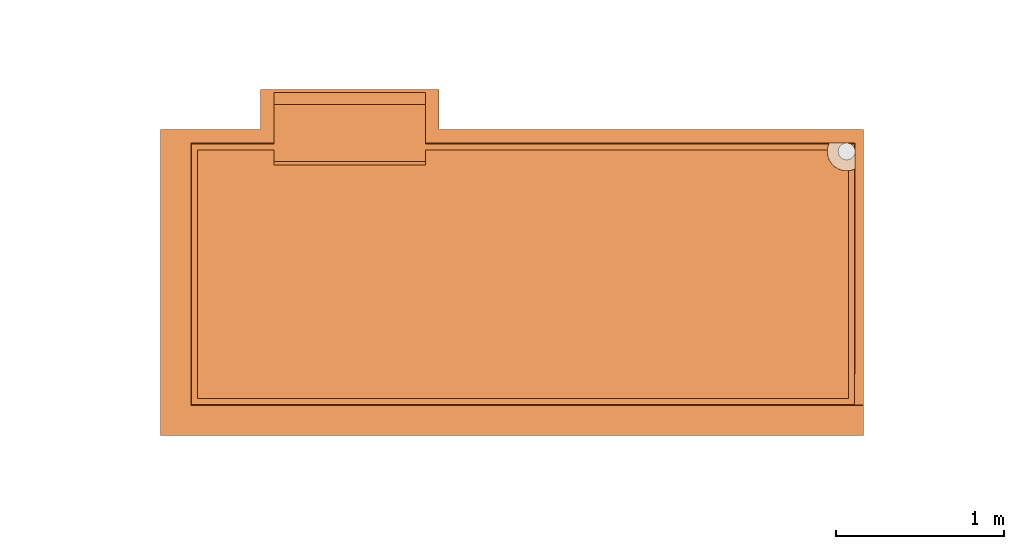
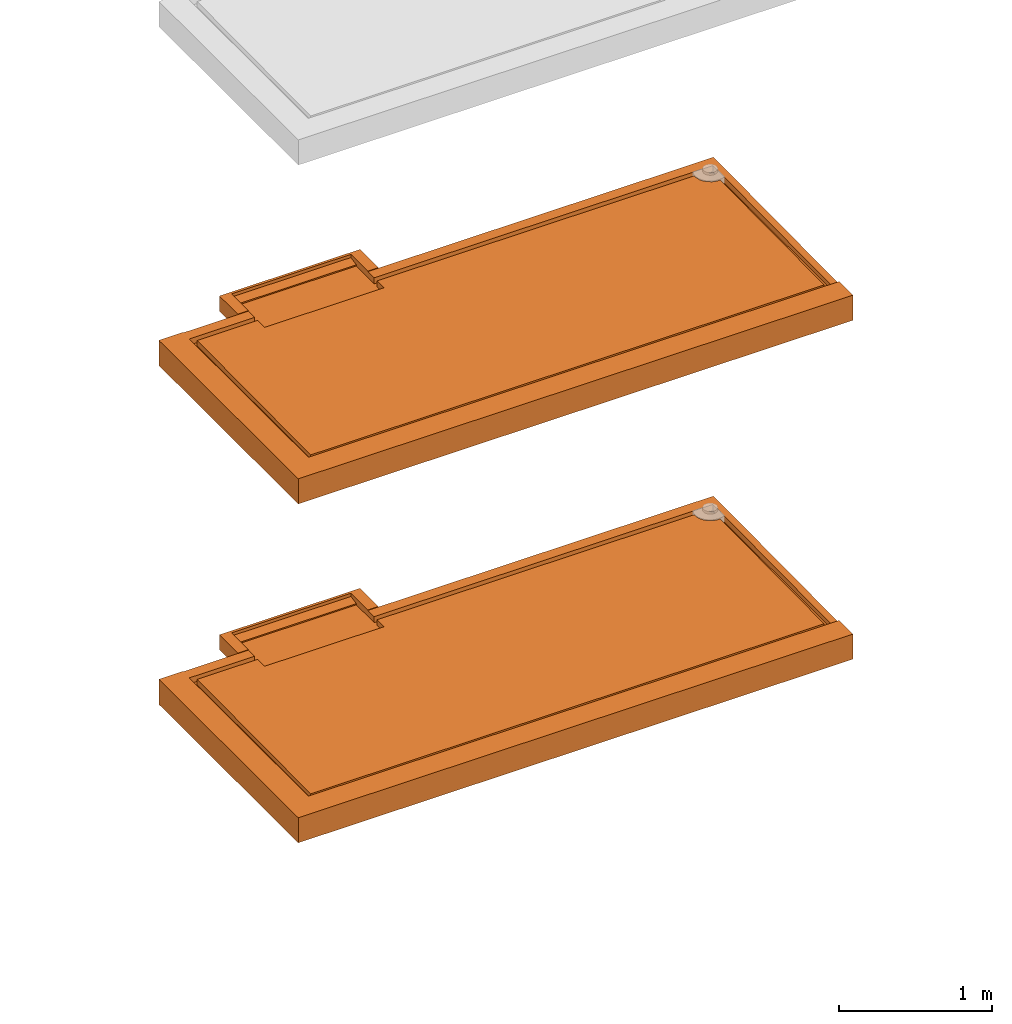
# One storey, part 16 of 31: 2 proxies, 2 elements without a shape of their own.
"""IFC2X3 building model written with IfcOpenShell, lengths in centimetres."""

from ifc_helpers import new_model, entity, si_unit, converted_unit, derived_unit, direction, frame, origin, place, context, subcontext, project, spatial, faceted_brep, source, transform, mapped, material, type_object, type_shapes, element, aggregate, save


model = new_model("IFC2X3")

# Units and contexts
model_context = context("Model", 3, precision=0.001, world=origin(), true_north=direction((6.12303176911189e-17, 1.0)))
body_context = subcontext(model_context, "Body", "Model", "MODEL_VIEW")
ifc_project = project(units=[si_unit("LENGTHUNIT", "METRE", prefix="CENTI"), si_unit("AREAUNIT", "SQUARE_METRE"), si_unit("VOLUMEUNIT", "CUBIC_METRE"), converted_unit("PLANEANGLEUNIT", "DEGREE", entity("IfcRatioMeasure", 0.0174532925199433), si_unit("PLANEANGLEUNIT", "RADIAN"), dimensions=[0, 0, 0, 0, 0, 0, 0]), si_unit("MASSUNIT", "GRAM", prefix="KILO"), derived_unit("MASSDENSITYUNIT", [(si_unit("MASSUNIT", "GRAM", prefix="KILO"), 1), (si_unit("LENGTHUNIT", "METRE"), -3)]), si_unit("TIMEUNIT", "SECOND"), si_unit("FREQUENCYUNIT", "HERTZ"), si_unit("THERMODYNAMICTEMPERATUREUNIT", "DEGREE_CELSIUS"), derived_unit("THERMALTRANSMITTANCEUNIT", [(si_unit("MASSUNIT", "GRAM", prefix="KILO"), 1), (si_unit("THERMODYNAMICTEMPERATUREUNIT", "KELVIN"), -1), (si_unit("TIMEUNIT", "SECOND"), -3)]), derived_unit("VOLUMETRICFLOWRATEUNIT", [(si_unit("LENGTHUNIT", "METRE"), 3), (si_unit("TIMEUNIT", "SECOND"), -1)]), si_unit("ELECTRICCURRENTUNIT", "AMPERE"), si_unit("ELECTRICVOLTAGEUNIT", "VOLT"), si_unit("POWERUNIT", "WATT"), si_unit("FORCEUNIT", "NEWTON"), si_unit("ILLUMINANCEUNIT", "LUX"), si_unit("LUMINOUSFLUXUNIT", "LUMEN"), si_unit("LUMINOUSINTENSITYUNIT", "CANDELA"), derived_unit("USERDEFINED", [(si_unit("MASSUNIT", "GRAM", prefix="KILO"), -1), (si_unit("LENGTHUNIT", "METRE"), -2), (si_unit("TIMEUNIT", "SECOND"), 3), (si_unit("LUMINOUSFLUXUNIT", "LUMEN"), 1)]), derived_unit("LINEARVELOCITYUNIT", [(si_unit("LENGTHUNIT", "METRE"), 1), (si_unit("TIMEUNIT", "SECOND"), -1)]), si_unit("PRESSUREUNIT", "PASCAL"), derived_unit("USERDEFINED", [(si_unit("LENGTHUNIT", "METRE"), -2), (si_unit("MASSUNIT", "GRAM", prefix="KILO"), 1), (si_unit("TIMEUNIT", "SECOND"), -2)])], contexts=[model_context])

# Site, building, storey
site_placement = place(None, origin())
site = spatial("IfcSite", under=ifc_project, at=site_placement, Name="Default", CompositionType="ELEMENT")
building_placement = place(site_placement, origin())
building = spatial("IfcBuilding", under=site, at=building_placement, Name="CAGE 03", CompositionType="ELEMENT")
storey_placement = place(building_placement, frame((0.0, 0.0, -400.0)))
storey = spatial("IfcBuildingStorey", under=building, at=storey_placement, Name="±0.00", CompositionType="ELEMENT", Elevation=-400.0)

# Assembly, proxy
assembly_1_placement = place(storey_placement, origin())
assembly_1 = element("IfcElementAssembly", 1, at=assembly_1_placement, inside=storey, Name="Assemblage Modèles génériques:BALCON TYPE 05", ObjectType="Assemblage Modèles génériques:BALCON TYPE 05", AssemblyPlace="NOTDEFINED", PredefinedType="USERDEFINED")
ifc_material = material(Name="Béton, panneaux préfa 30/37")
building_element_proxy_type_1 = type_object("IfcBuildingElementProxyType", Name="balcon préfa type 05", PredefinedType="NOTDEFINED", material=ifc_material)
shared_shape_1 = source(origin(), body_context, "Body", "Brep", [
    faceted_brep([(18.4374433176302, 173.562556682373, 15.0), (18.4374433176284, 18.437443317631, 15.0), (412.562556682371, 18.4374433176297, 15.0), (412.562556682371, 158.443813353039, 15.0), (410.817467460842, 157.850476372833, 15.0), (409.0, 157.543560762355, 15.0), (409.0, 22.0, 15.0), (22.0, 22.0, 15.0), (22.0, 170.0, 15.0), (67.5000000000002, 170.0, 15.0), (67.5000000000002, 163.0, 15.0), (157.500000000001, 163.0, 15.0), (157.500000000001, 170.0, 15.0), (396.543560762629, 170.0, 15.0), (396.85047637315, 171.817467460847, 15.0), (397.443813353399, 173.562556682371, 15.0), (157.500000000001, 173.562556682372, 15.0), (157.500000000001, 197.0, 15.0), (67.5000000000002, 197.0, 15.0), (67.5000000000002, 173.562556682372, 15.0), (410.045257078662, 173.562556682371, 15.0), (411.081635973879, 172.937450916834, 15.0), (411.937450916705, 172.081635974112, 15.0), (412.562556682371, 171.045257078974, 15.0), (412.562556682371, 173.562556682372, 15.0), (59.5000000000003, 182.0, 20.0), (67.5000000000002, 182.0, 20.0), (67.5000000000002, 204.0, 20.0), (157.500000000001, 204.0, 20.0), (157.500000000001, 182.0, 20.0), (165.5, 182.0, 20.0), (165.5, 198.0, 20.0), (165.5, 206.0, 20.0), (59.5000000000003, 206.0, 20.0), (59.5000000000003, 198.0, 20.0), (18.0, 18.0, 20.0), (18.0, 180.0, 20.0), (18.0, 182.0, 20.0), (0.0, 182.0, 20.0), (0.0, 180.0, 20.0), (0.0, 0.0, 20.0), (418.0, 0.0, 20.0), (418.0, 18.0, 20.0), (59.5000000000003, 206.0, 8.0), (165.5, 206.0, 8.0), (0.0, 0.0, 0.0), (418.0, 0.0, 0.0), (67.5000000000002, 163.0, 16.9198129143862), (67.5000000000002, 161.026803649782, 16.9000788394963), (157.500000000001, 161.026803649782, 16.9000788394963), (157.500000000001, 163.0, 16.9198129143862), (418.0, 180.0, 0.0), (418.0, 182.0, 0.0), (418.0, 182.0, 19.6099582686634), (418.0, 180.0, 19.5899561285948), (418.0, 18.177465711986, 17.9715576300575), (412.822534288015, 18.177465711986, 17.9715576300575), (18.0411600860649, 173.958839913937, 19.529538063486), (18.0358741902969, 180.0, 19.589956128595), (18.0341242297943, 182.0, 19.6099582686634), (0.0, 182.0, 0.0), (0.0, 180.0, 0.0), (67.500000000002, 173.958839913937, 19.5295380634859), (397.48794000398, 173.662054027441, 16.1372598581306), (397.532066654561, 173.761551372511, 17.2745197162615), (397.578068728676, 173.860195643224, 18.4020288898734), (397.601069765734, 173.90951777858, 18.9657834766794), (397.61257028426, 173.934178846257, 19.2476607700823), (397.624070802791, 173.958839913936, 19.5295380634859), (157.500000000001, 173.958839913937, 19.5295380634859), (412.958839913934, 173.958839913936, 19.5295380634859), (408.640239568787, 173.958839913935, 19.5295380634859), (409.001449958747, 173.898683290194, 18.8419447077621), (409.357288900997, 173.812251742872, 17.8540276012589), (409.705847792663, 173.700008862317, 16.5710856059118), (4.0, 4.0, 1.46630765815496), (4.0, 4.0, 0.0), (414.0, 4.0, 0.0), (414.0, 4.0, 1.46630765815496), (165.5, 182.0, 19.6099582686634), (165.5, 182.0, 8.0), (165.5, 198.0, 8.0), (67.5000000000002, 204.0, 17.4999999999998), (157.500000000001, 204.0, 17.4999999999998), (59.5000000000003, 198.0, 8.0), (59.5000000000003, 182.0, 8.0), (59.5000000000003, 182.0, 19.6099582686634), (415.0, 182.0, 0.0), (415.0, 182.0, 1.0), (414.0, 182.0, 1.46630765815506), (414.0, 182.0, 0.0), (18.0, 182.0, 0.0), (4.0, 182.0, 0.0), (4.0, 182.0, 1.46630765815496), (3.0, 182.0, 1.0), (3.0, 182.0, 0.0), (67.5000000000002, 180.0, 19.5899561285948), (67.5000000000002, 182.0, 19.6099582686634), (22.0, 22.0, 18.0097870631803), (409.0, 22.0, 18.0097870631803), (409.0, 157.543560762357, 19.3653677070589), (406.142764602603, 157.65096142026, 19.3664418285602), (403.400338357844, 158.459928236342, 19.3745323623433), (400.942250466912, 159.92045312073, 19.3891391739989), (398.920453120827, 161.94225046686, 19.4093593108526), (397.459928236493, 164.400338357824, 19.4339428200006), (396.65096142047, 167.1427646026, 19.4613700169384), (396.543560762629, 170.0, 19.4899454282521), (157.500000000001, 170.0, 19.4899454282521), (157.500000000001, 161.001802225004, 19.3999538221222), (67.5000000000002, 161.001802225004, 19.3999538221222), (67.5000000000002, 170.0, 19.4899454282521), (22.0, 170.0, 19.4899454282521), (157.500000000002, 182.0, 19.6099582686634), (157.500000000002, 180.0, 19.5899561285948), (397.633936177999, 173.979429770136, 19.5297439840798), (397.643842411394, 174.0, 19.5299497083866), (408.0, 174.0, 19.5299497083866), (408.320780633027, 173.989699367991, 19.5298466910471), (412.955086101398, 169.668671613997, 19.4866317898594), (412.98875888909, 169.335089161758, 19.4832956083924), (413.0, 169.0, 19.4799443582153), (413.0, 158.643842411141, 19.3763717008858), (412.972725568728, 158.630718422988, 19.3762404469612), (412.945416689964, 158.617666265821, 19.3761099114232), (157.500000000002, 197.0, 15.9713250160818), (67.5000000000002, 197.0, 15.9713250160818), (415.0, 3.0, 1.0), (3.0, 3.0, 1.0), (4.0, 180.0, 0.0), (403.669872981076, 166.499999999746, 0.0), (403.170370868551, 167.705904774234, 0.0), (403.0, 169.0, 0.0), (403.170370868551, 170.294095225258, 0.0), (403.669872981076, 171.499999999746, 0.0), (404.464466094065, 172.535533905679, 0.0), (405.499999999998, 173.330127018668, 0.0), (406.705904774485, 173.829629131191, 0.0), (408.0, 174.0, 0.0), (414.0, 180.0, 0.0), (409.29409522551, 173.829629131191, 0.0), (410.499999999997, 173.330127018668, 0.0), (411.535533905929, 172.535533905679, 0.0), (412.330127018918, 171.499999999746, 0.0), (412.829629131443, 170.294095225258, 0.0), (413.0, 169.0, 0.0), (404.464466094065, 165.464466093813, 0.0), (405.499999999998, 164.669872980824, 0.0), (406.705904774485, 164.170370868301, 0.0), (412.829629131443, 167.705904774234, 0.0), (412.330127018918, 166.499999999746, 0.0), (411.535533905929, 165.464466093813, 0.0), (410.499999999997, 164.669872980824, 0.0), (409.29409522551, 164.170370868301, 0.0), (408.0, 164.0, 0.0), (3.0, 180.0, 0.0), (3.0, 3.0, 0.0), (415.0, 3.0, 0.0), (415.0, 180.0, 0.0), (415.0, 180.0, 1.0), (414.0, 180.0, 1.46630765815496), (3.0, 180.0, 1.0), (4.0, 180.0, 1.46630765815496), (412.697557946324, 170.712585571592, 16.5430715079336), (412.808339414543, 170.371084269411, 17.809309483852), (412.894329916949, 170.022513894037, 18.7921854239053), (412.897757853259, 158.595497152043, 18.8313669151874), (412.850099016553, 158.573328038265, 18.2866239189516), (412.754781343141, 158.52898981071, 17.1971379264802), (396.735578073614, 171.315771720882, 7.69999999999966), (396.511272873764, 168.490933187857, 7.69999999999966), (396.984546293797, 165.697004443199, 7.69999999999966), (398.126661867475, 163.103628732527, 7.69999999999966), (399.868272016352, 160.868272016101, 7.69999999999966), (402.103628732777, 159.126661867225, 7.69999999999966), (404.697004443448, 157.984546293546, 7.69999999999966), (407.490933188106, 157.511272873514, 7.69999999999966), (410.315771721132, 157.735578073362, 7.69999999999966), (413.0, 158.643842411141, 7.69999999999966), (413.0, 169.0, 7.69999999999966), (412.829629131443, 167.705904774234, 7.69999999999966), (412.330127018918, 166.499999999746, 7.69999999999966), (411.535533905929, 165.464466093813, 7.69999999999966), (410.499999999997, 164.669872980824, 7.69999999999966), (409.29409522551, 164.170370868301, 7.69999999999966), (408.0, 164.0, 7.69999999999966), (406.705904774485, 164.170370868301, 7.69999999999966), (405.499999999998, 164.669872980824, 7.69999999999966), (404.464466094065, 165.464466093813, 7.69999999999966), (403.669872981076, 166.499999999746, 7.69999999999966), (403.170370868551, 167.705904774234, 7.69999999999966), (403.0, 169.0, 7.69999999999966), (403.170370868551, 170.294095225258, 7.69999999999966), (403.669872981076, 171.499999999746, 7.69999999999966), (404.464466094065, 172.535533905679, 7.69999999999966), (405.499999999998, 173.330127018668, 7.69999999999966), (406.705904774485, 173.829629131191, 7.69999999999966), (408.0, 174.0, 7.69999999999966), (397.643842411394, 174.0, 7.69999999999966), (397.643842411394, 174.0, 19.1602618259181), (397.643842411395, 174.0, 18.7905739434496), (397.643842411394, 174.0, 18.0512051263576), (397.643842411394, 174.0, 16.5724605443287), (397.643842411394, 174.0, 15.0937159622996), (397.643842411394, 174.0, 13.6149713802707), (413.0, 158.643842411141, 18.6465984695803), (413.0, 158.643842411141, 17.9168252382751), (413.0, 158.643842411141, 13.5381858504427), (413.0, 158.643842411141, 16.4572787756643), (413.0, 158.643842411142, 14.9977323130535)], [[[0, 1, 2, 3, 4, 5, 6, 7, 8, 9, 10, 11, 12, 13, 14, 15, 16, 17, 18, 19]], [[20, 21, 22, 23, 24]], [[25, 26, 27, 28, 29, 30, 31, 32, 33, 34]], [[35, 36, 37, 38, 39, 40, 41, 42]], [[43, 33, 32, 44]], [[40, 45, 46, 41]], [[47, 48, 49, 50]], [[10, 47, 50, 11]], [[51, 52, 53, 54, 55, 42, 41, 46]], [[42, 55, 56, 2, 1, 35]], [[1, 0, 57, 58, 59, 37, 36, 35]], [[45, 40, 39, 38, 60, 61]], [[62, 57, 0, 19]], [[15, 63, 64, 65, 66, 67, 68, 69, 16]], [[70, 71, 72, 73, 74, 20, 24]], [[75, 76, 77, 78]], [[31, 30, 79, 80, 81, 44, 32]], [[27, 82, 83, 28]], [[84, 43, 44, 81, 80, 85]], [[38, 37, 59, 86, 85, 80, 79, 53, 52, 87, 88, 89, 90, 91, 92, 93, 94, 95, 60]], [[58, 57, 62, 96, 97, 86, 59]], [[98, 99, 100, 101, 102, 103, 104, 105, 106, 107, 108, 109, 110, 111, 112]], [[79, 113, 114, 69, 68, 115, 116, 117, 118, 71, 70, 119, 120, 121, 122, 123, 124, 56, 55, 54, 53]], [[125, 17, 16, 69, 114, 113, 29, 28, 83]], [[108, 12, 11, 50, 49, 109]], [[82, 27, 26, 97, 96, 62, 19, 18, 126]], [[111, 110, 48, 47, 10, 9]], [[75, 78, 127, 128]], [[92, 91, 129]], [[76, 129, 91]], [[91, 130, 76]], [[91, 131, 130]], [[131, 91, 132]], [[132, 91, 133]], [[133, 91, 134]], [[135, 134, 91]], [[90, 135, 91]], [[90, 136, 135]], [[90, 137, 136]], [[138, 137, 90]], [[139, 138, 90]], [[140, 138, 139]], [[140, 139, 141]], [[142, 141, 139]], [[139, 143, 142]], [[144, 143, 139]], [[139, 145, 144]], [[145, 139, 77]], [[76, 130, 77]], [[77, 130, 146]], [[77, 146, 147]], [[77, 147, 148]], [[149, 145, 77]], [[77, 150, 149]], [[150, 77, 151]], [[152, 151, 77]], [[152, 77, 153]], [[154, 153, 77]], [[154, 77, 148]], [[60, 95, 155, 156, 157, 158, 87, 52, 51, 46, 45, 61]], [[48, 110, 109, 49]], [[8, 7, 98, 112]], [[9, 8, 112, 111]], [[13, 12, 108, 107]], [[7, 6, 99, 98]], [[128, 127, 157, 156]], [[82, 126, 125, 83]], [[126, 18, 17, 125]], [[30, 29, 113, 79]], [[26, 25, 86, 97]], [[87, 158, 157, 127, 159, 88]], [[160, 78, 77, 139, 90, 89]], [[159, 127, 78, 160, 89, 88]], [[156, 155, 95, 94, 161, 128]], [[76, 75, 162, 93, 92, 129]], [[75, 128, 161, 94, 93, 162]], [[99, 6, 5, 100]], [[23, 163, 164, 165, 119, 70, 24]], [[2, 56, 124, 166, 167, 168, 3]], [[34, 33, 43, 84, 85, 86, 25]], [[169, 170, 171, 172, 173, 174, 175, 176, 177, 178, 179, 180, 181, 182, 183, 184, 185, 186, 187, 188, 189, 190, 191, 192, 193, 194, 195, 196, 197, 198]], [[117, 116, 199, 200, 201, 202, 203, 204, 198, 197]], [[14, 169, 198]], [[65, 64, 201]], [[14, 204, 15]], [[14, 13, 169]], [[63, 202, 64]], [[171, 170, 106]], [[170, 13, 106]], [[169, 13, 170]], [[105, 172, 171]], [[205, 206, 167]], [[122, 205, 166]], [[200, 199, 66]], [[200, 65, 201]], [[204, 14, 198]], [[66, 65, 200]], [[105, 171, 106]], [[67, 66, 199]], [[115, 68, 67]], [[106, 13, 107]], [[105, 104, 172]], [[67, 199, 115]], [[104, 173, 172]], [[174, 102, 175]], [[173, 103, 174]], [[176, 175, 101]], [[177, 207, 178]], [[202, 201, 64]], [[177, 5, 4]], [[207, 177, 4]], [[176, 5, 177]], [[101, 5, 176]], [[15, 203, 63]], [[100, 5, 101]], [[166, 123, 122]], [[102, 174, 103]], [[168, 208, 3]], [[101, 175, 102]], [[3, 208, 209, 207]], [[4, 3, 207]], [[206, 208, 168]], [[206, 168, 167]], [[167, 166, 205]], [[166, 124, 123]], [[116, 115, 199]], [[15, 204, 203]], [[202, 63, 203]], [[104, 103, 173]], [[179, 178, 207, 209, 208, 206, 205, 122, 121]], [[136, 137, 196, 195]], [[136, 195, 194, 135]], [[133, 134, 193, 192]], [[194, 193, 134, 135]], [[132, 133, 192, 191]], [[138, 197, 196, 137]], [[130, 131, 190, 189]], [[130, 189, 188, 146]], [[148, 147, 187, 186]], [[188, 187, 147, 146]], [[154, 148, 186, 185]], [[191, 190, 131, 132]], [[153, 184, 183, 152]], [[154, 185, 184, 153]], [[149, 150, 181, 180]], [[151, 152, 183, 182]], [[151, 182, 181, 150]], [[180, 179, 145, 149]], [[119, 165, 179]], [[179, 165, 144]], [[121, 120, 179]], [[119, 179, 120]], [[144, 145, 179]], [[23, 143, 144]], [[143, 23, 22]], [[22, 142, 143]], [[163, 23, 144]], [[197, 138, 140]], [[141, 142, 21]], [[141, 20, 140]], [[22, 21, 142]], [[140, 72, 197]], [[141, 21, 20]], [[144, 164, 163]], [[20, 74, 140]], [[72, 140, 73]], [[72, 71, 197]], [[73, 140, 74]], [[71, 118, 197]], [[197, 118, 117]], [[165, 164, 144]]]),
])
type_shapes(building_element_proxy_type_1, [shared_shape_1])
proxy_1_placement = place(assembly_1_placement, frame((9284.36582014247, 3796.66066607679, 990.0)))
proxy_1 = element("IfcBuildingElementProxy", 2, at=proxy_1_placement, type_object=building_element_proxy_type_1, material=ifc_material, Name="BY_STR_Balcon_préfa_05:balcon préfa type 05", ObjectType="balcon préfa type 05", context=body_context, shape_type="MappedRepresentation", body=[
    mapped(shared_shape_1, transform((0.0, 0.0, 0.0), scale=1.0)),
])
aggregate(assembly_1, [proxy_1])

assembly_2_placement = place(storey_placement, origin())
assembly_2 = element("IfcElementAssembly", 3, at=assembly_2_placement, inside=storey, Name="Assemblage Modèles génériques:BALCON TYPE 05", ObjectType="Assemblage Modèles génériques:BALCON TYPE 05", AssemblyPlace="NOTDEFINED", PredefinedType="USERDEFINED")
building_element_proxy_type_2 = type_object("IfcBuildingElementProxyType", Name="balcon préfa type 05", PredefinedType="NOTDEFINED", material=ifc_material)
shared_shape_2 = source(origin(), body_context, "Body", "Brep", [
    faceted_brep([(18.4374433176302, 173.562556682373, 15.0), (18.4374433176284, 18.437443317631, 15.0), (412.562556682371, 18.4374433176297, 15.0), (412.562556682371, 158.443813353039, 15.0), (410.817467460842, 157.850476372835, 15.0), (409.0, 157.543560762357, 15.0), (409.0, 22.0, 15.0), (22.0, 22.0, 15.0), (22.0, 170.0, 15.0), (67.5000000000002, 170.0, 15.0), (67.5000000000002, 163.0, 15.0), (157.500000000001, 163.0, 15.0), (157.500000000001, 170.0, 15.0), (396.543560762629, 170.0, 15.0), (396.85047637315, 171.817467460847, 15.0), (397.443813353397, 173.562556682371, 15.0), (157.500000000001, 173.562556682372, 15.0), (157.500000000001, 197.0, 15.0), (67.5000000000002, 197.0, 15.0), (67.5000000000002, 173.562556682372, 15.0), (410.045257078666, 173.562556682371, 15.0), (411.08163597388, 172.937450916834, 15.0), (411.937450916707, 172.081635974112, 15.0), (412.562556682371, 171.045257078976, 15.0), (412.562556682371, 173.562556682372, 15.0), (59.5000000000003, 182.0, 20.0), (67.5000000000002, 182.0, 20.0), (67.5000000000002, 204.0, 20.0), (157.500000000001, 204.0, 20.0), (157.500000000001, 182.0, 20.0), (165.5, 182.0, 20.0), (165.5, 198.0, 20.0), (165.5, 206.0, 20.0), (59.5000000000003, 206.0, 20.0), (59.5000000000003, 198.0, 20.0), (18.0, 18.0, 20.0), (18.0, 180.0, 20.0), (18.0, 182.0, 20.0), (0.0, 182.0, 20.0), (0.0, 180.0, 20.0), (0.0, 0.0, 20.0), (418.0, 0.0, 20.0), (418.0, 18.0, 20.0), (59.5000000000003, 206.0, 8.0), (165.5, 206.0, 8.0), (0.0, 0.0, 0.0), (418.0, 0.0, 0.0), (67.5000000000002, 163.0, 16.9198129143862), (67.5000000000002, 161.026803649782, 16.9000788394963), (157.500000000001, 161.026803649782, 16.9000788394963), (157.500000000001, 163.0, 16.9198129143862), (418.0, 180.0, 0.0), (418.0, 182.0, 0.0), (418.0, 182.0, 19.6099582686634), (418.0, 180.0, 19.5899561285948), (418.0, 18.177465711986, 17.9715576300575), (412.822534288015, 18.177465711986, 17.9715576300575), (18.0411600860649, 173.958839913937, 19.529538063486), (18.0358741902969, 180.0, 19.589956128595), (18.0341242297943, 182.0, 19.6099582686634), (0.0, 182.0, 0.0), (0.0, 180.0, 0.0), (67.500000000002, 173.958839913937, 19.5295380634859), (397.487940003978, 173.662054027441, 16.1372598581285), (397.532066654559, 173.761551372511, 17.2745197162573), (397.578068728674, 173.860195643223, 18.4020288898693), (397.601069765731, 173.90951777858, 18.9657834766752), (397.612570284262, 173.934178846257, 19.2476607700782), (397.624070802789, 173.958839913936, 19.5295380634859), (157.500000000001, 173.958839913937, 19.5295380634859), (412.958839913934, 173.958839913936, 19.5295380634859), (408.6402395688, 173.958839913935, 19.5295380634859), (409.001449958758, 173.898683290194, 18.8419447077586), (409.357288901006, 173.812251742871, 17.8540276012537), (409.705847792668, 173.700008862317, 16.5710856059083), (4.0, 4.0, 1.46630765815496), (4.0, 4.0, 0.0), (414.0, 4.0, 0.0), (414.0, 4.0, 1.46630765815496), (165.5, 182.0, 19.6099582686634), (165.5, 182.0, 8.0), (165.5, 198.0, 8.0), (67.5000000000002, 204.0, 17.4999999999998), (157.500000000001, 204.0, 17.4999999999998), (59.5000000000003, 198.0, 8.0), (59.5000000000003, 182.0, 8.0), (59.5000000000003, 182.0, 19.6099582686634), (415.0, 182.0, 0.0), (415.0, 182.0, 1.0), (414.0, 182.0, 1.46630765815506), (414.0, 182.0, 0.0), (18.0, 182.0, 0.0), (4.0, 182.0, 0.0), (4.0, 182.0, 1.46630765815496), (3.0, 182.0, 1.0), (3.0, 182.0, 0.0), (67.5000000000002, 180.0, 19.5899561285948), (67.5000000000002, 182.0, 19.6099582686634), (22.0, 22.0, 18.0097870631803), (409.0, 22.0, 18.0097870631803), (409.0, 157.543560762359, 19.3653677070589), (406.142764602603, 157.650961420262, 19.3664418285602), (403.400338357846, 158.459928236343, 19.3745323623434), (400.942250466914, 159.920453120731, 19.3891391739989), (398.920453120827, 161.942250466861, 19.4093593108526), (397.459928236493, 164.400338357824, 19.4339428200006), (396.650961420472, 167.1427646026, 19.4613700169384), (396.543560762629, 170.0, 19.4899454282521), (157.500000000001, 170.0, 19.4899454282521), (157.500000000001, 161.001802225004, 19.3999538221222), (67.5000000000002, 161.001802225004, 19.3999538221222), (67.5000000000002, 170.0, 19.4899454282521), (22.0, 170.0, 19.4899454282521), (157.500000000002, 182.0, 19.6099582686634), (157.500000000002, 180.0, 19.5899561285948), (397.633936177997, 173.979429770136, 19.5297439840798), (397.643842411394, 174.0, 19.5299497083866), (408.0, 174.0, 19.5299497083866), (408.320780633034, 173.989699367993, 19.5298466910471), (412.955086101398, 169.668671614, 19.4866317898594), (412.98875888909, 169.33508916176, 19.4832956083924), (413.0, 169.0, 19.4799443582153), (413.0, 158.643842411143, 19.3763717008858), (412.972725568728, 158.63071842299, 19.3762404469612), (412.945416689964, 158.617666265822, 19.3761099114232), (157.500000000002, 197.0, 15.9713250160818), (67.5000000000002, 197.0, 15.9713250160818), (415.0, 3.0, 1.0), (3.0, 3.0, 1.0), (4.0, 180.0, 0.0), (403.669872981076, 166.499999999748, 0.0), (403.170370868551, 167.705904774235, 0.0), (403.0, 169.0, 0.0), (403.170370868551, 170.29409522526, 0.0), (403.669872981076, 171.499999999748, 0.0), (404.464466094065, 172.53553390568, 0.0), (405.499999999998, 173.33012701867, 0.0), (406.705904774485, 173.829629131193, 0.0), (408.0, 174.0, 0.0), (414.0, 180.0, 0.0), (409.29409522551, 173.829629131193, 0.0), (410.499999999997, 173.33012701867, 0.0), (411.535533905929, 172.53553390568, 0.0), (412.330127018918, 171.499999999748, 0.0), (412.829629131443, 170.29409522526, 0.0), (413.0, 169.0, 0.0), (404.464466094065, 165.464466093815, 0.0), (405.499999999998, 164.669872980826, 0.0), (406.705904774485, 164.170370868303, 0.0), (412.829629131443, 167.705904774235, 0.0), (412.330127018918, 166.499999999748, 0.0), (411.535533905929, 165.464466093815, 0.0), (410.499999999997, 164.669872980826, 0.0), (409.29409522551, 164.170370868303, 0.0), (408.0, 164.0, 0.0), (3.0, 180.0, 0.0), (3.0, 3.0, 0.0), (415.0, 3.0, 0.0), (415.0, 180.0, 0.0), (415.0, 180.0, 1.0), (414.0, 180.0, 1.46630765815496), (3.0, 180.0, 1.0), (4.0, 180.0, 1.46630765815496), (412.697557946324, 170.712585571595, 16.5430715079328), (412.808339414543, 170.371084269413, 17.8093094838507), (412.894329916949, 170.022513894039, 18.7921854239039), (412.897757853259, 158.595497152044, 18.8313669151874), (412.850099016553, 158.573328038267, 18.2866239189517), (412.754781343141, 158.528989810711, 17.1971379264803), (396.735578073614, 171.315771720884, 7.69999999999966), (396.511272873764, 168.490933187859, 7.69999999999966), (396.984546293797, 165.697004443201, 7.69999999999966), (398.126661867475, 163.103628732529, 7.69999999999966), (399.868272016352, 160.868272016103, 7.69999999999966), (402.103628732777, 159.126661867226, 7.69999999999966), (404.697004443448, 157.984546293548, 7.69999999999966), (407.490933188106, 157.511272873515, 7.69999999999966), (410.315771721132, 157.735578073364, 7.69999999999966), (413.0, 158.643842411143, 7.69999999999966), (413.0, 169.0, 7.69999999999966), (412.829629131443, 167.705904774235, 7.69999999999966), (412.330127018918, 166.499999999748, 7.69999999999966), (411.535533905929, 165.464466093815, 7.69999999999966), (410.499999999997, 164.669872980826, 7.69999999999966), (409.29409522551, 164.170370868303, 7.69999999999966), (408.0, 164.0, 7.69999999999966), (406.705904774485, 164.170370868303, 7.69999999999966), (405.499999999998, 164.669872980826, 7.69999999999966), (404.464466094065, 165.464466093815, 7.69999999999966), (403.669872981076, 166.499999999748, 7.69999999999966), (403.170370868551, 167.705904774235, 7.69999999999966), (403.0, 169.0, 7.69999999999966), (403.170370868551, 170.29409522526, 7.69999999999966), (403.669872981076, 171.499999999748, 7.69999999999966), (404.464466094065, 172.53553390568, 7.69999999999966), (405.499999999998, 173.33012701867, 7.69999999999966), (406.705904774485, 173.829629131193, 7.69999999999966), (408.0, 174.0, 7.69999999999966), (397.643842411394, 174.0, 7.69999999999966), (397.643842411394, 174.0, 19.1602618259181), (397.643842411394, 174.0, 18.7905808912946), (397.643842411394, 174.0, 18.0512051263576), (397.643842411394, 174.0, 16.5724674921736), (397.643842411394, 174.0, 15.0937229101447), (397.643842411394, 174.0, 13.6149783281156), (413.0, 158.643842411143, 18.6465984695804), (413.0, 158.643842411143, 17.916825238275), (413.0, 158.643842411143, 13.5381858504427), (413.0, 158.643842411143, 16.4572787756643), (413.0, 158.643842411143, 14.9977323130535)], [[[0, 1, 2, 3, 4, 5, 6, 7, 8, 9, 10, 11, 12, 13, 14, 15, 16, 17, 18, 19]], [[20, 21, 22, 23, 24]], [[25, 26, 27, 28, 29, 30, 31, 32, 33, 34]], [[35, 36, 37, 38, 39, 40, 41, 42]], [[43, 33, 32, 44]], [[40, 45, 46, 41]], [[47, 48, 49, 50]], [[10, 47, 50, 11]], [[51, 52, 53, 54, 55, 42, 41, 46]], [[42, 55, 56, 2, 1, 35]], [[1, 0, 57, 58, 59, 37, 36, 35]], [[45, 40, 39, 38, 60, 61]], [[62, 57, 0, 19]], [[15, 63, 64, 65, 66, 67, 68, 69, 16]], [[70, 71, 72, 73, 74, 20, 24]], [[75, 76, 77, 78]], [[31, 30, 79, 80, 81, 44, 32]], [[27, 82, 83, 28]], [[84, 43, 44, 81, 80, 85]], [[38, 37, 59, 86, 85, 80, 79, 53, 52, 87, 88, 89, 90, 91, 92, 93, 94, 95, 60]], [[58, 57, 62, 96, 97, 86, 59]], [[98, 99, 100, 101, 102, 103, 104, 105, 106, 107, 108, 109, 110, 111, 112]], [[79, 113, 114, 69, 68, 115, 116, 117, 118, 71, 70, 119, 120, 121, 122, 123, 124, 56, 55, 54, 53]], [[125, 17, 16, 69, 114, 113, 29, 28, 83]], [[108, 12, 11, 50, 49, 109]], [[82, 27, 26, 97, 96, 62, 19, 18, 126]], [[111, 110, 48, 47, 10, 9]], [[75, 78, 127, 128]], [[92, 91, 129]], [[76, 129, 91]], [[91, 130, 76]], [[91, 131, 130]], [[131, 91, 132]], [[132, 91, 133]], [[133, 91, 134]], [[135, 134, 91]], [[90, 135, 91]], [[90, 136, 135]], [[90, 137, 136]], [[138, 137, 90]], [[139, 138, 90]], [[140, 138, 139]], [[140, 139, 141]], [[142, 141, 139]], [[139, 143, 142]], [[144, 143, 139]], [[139, 145, 144]], [[145, 139, 77]], [[76, 130, 77]], [[77, 130, 146]], [[77, 146, 147]], [[77, 147, 148]], [[149, 145, 77]], [[77, 150, 149]], [[150, 77, 151]], [[152, 151, 77]], [[152, 77, 153]], [[154, 153, 77]], [[154, 77, 148]], [[60, 95, 155, 156, 157, 158, 87, 52, 51, 46, 45, 61]], [[48, 110, 109, 49]], [[8, 7, 98, 112]], [[9, 8, 112, 111]], [[13, 12, 108, 107]], [[7, 6, 99, 98]], [[128, 127, 157, 156]], [[82, 126, 125, 83]], [[126, 18, 17, 125]], [[30, 29, 113, 79]], [[26, 25, 86, 97]], [[87, 158, 157, 127, 159, 88]], [[160, 78, 77, 139, 90, 89]], [[159, 127, 78, 160, 89, 88]], [[156, 155, 95, 94, 161, 128]], [[129, 76, 75, 162, 93, 92]], [[75, 128, 161, 94, 93, 162]], [[99, 6, 5, 100]], [[23, 163, 164, 165, 119, 70, 24]], [[2, 56, 124, 166, 167, 168, 3]], [[34, 33, 43, 84, 85, 86, 25]], [[169, 170, 171, 172, 173, 174, 175, 176, 177, 178, 179, 180, 181, 182, 183, 184, 185, 186, 187, 188, 189, 190, 191, 192, 193, 194, 195, 196, 197, 198]], [[117, 116, 199, 200, 201, 202, 203, 204, 198, 197]], [[14, 169, 198]], [[65, 64, 201]], [[14, 204, 15]], [[14, 13, 169]], [[63, 202, 64]], [[171, 170, 106]], [[170, 13, 106]], [[169, 13, 170]], [[105, 172, 171]], [[205, 206, 167]], [[122, 205, 166]], [[200, 199, 66]], [[200, 65, 201]], [[204, 14, 198]], [[66, 65, 200]], [[105, 171, 106]], [[67, 66, 199]], [[115, 68, 67]], [[106, 13, 107]], [[105, 104, 172]], [[67, 199, 115]], [[104, 173, 172]], [[174, 102, 175]], [[173, 103, 174]], [[176, 175, 101]], [[177, 207, 178]], [[202, 201, 64]], [[177, 5, 4]], [[207, 177, 4]], [[176, 5, 177]], [[101, 5, 176]], [[15, 203, 63]], [[100, 5, 101]], [[166, 123, 122]], [[102, 174, 103]], [[168, 208, 3]], [[101, 175, 102]], [[3, 208, 209, 207]], [[4, 3, 207]], [[206, 208, 168]], [[206, 168, 167]], [[167, 166, 205]], [[166, 124, 123]], [[116, 115, 199]], [[15, 204, 203]], [[202, 63, 203]], [[104, 103, 173]], [[179, 178, 207, 209, 208, 206, 205, 122, 121]], [[136, 137, 196, 195]], [[136, 195, 194, 135]], [[133, 134, 193, 192]], [[194, 193, 134, 135]], [[132, 133, 192, 191]], [[138, 197, 196, 137]], [[130, 131, 190, 189]], [[130, 189, 188, 146]], [[148, 147, 187, 186]], [[188, 187, 147, 146]], [[154, 148, 186, 185]], [[191, 190, 131, 132]], [[153, 184, 183, 152]], [[154, 185, 184, 153]], [[149, 150, 181, 180]], [[151, 152, 183, 182]], [[151, 182, 181, 150]], [[180, 179, 145, 149]], [[119, 165, 179]], [[179, 165, 144]], [[121, 120, 179]], [[119, 179, 120]], [[144, 145, 179]], [[23, 143, 144]], [[143, 23, 22]], [[22, 142, 143]], [[163, 23, 144]], [[197, 138, 140]], [[141, 142, 21]], [[141, 20, 140]], [[22, 21, 142]], [[140, 72, 197]], [[141, 21, 20]], [[144, 164, 163]], [[20, 74, 140]], [[72, 140, 73]], [[72, 71, 197]], [[73, 140, 74]], [[71, 118, 197]], [[197, 118, 117]], [[165, 164, 144]]]),
])
type_shapes(building_element_proxy_type_2, [shared_shape_2])
proxy_2_placement = place(assembly_2_placement, frame((9284.36582014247, 3796.66066607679, 1260.0)))
proxy_2 = element("IfcBuildingElementProxy", 4, at=proxy_2_placement, type_object=building_element_proxy_type_2, material=ifc_material, Name="BY_STR_Balcon_préfa_05:balcon préfa type 05", ObjectType="balcon préfa type 05", context=body_context, shape_type="MappedRepresentation", body=[
    mapped(shared_shape_2, transform((0.0, 0.0, 0.0), scale=1.0)),
])
aggregate(assembly_2, [proxy_2])

save(model, "model.ifc")
